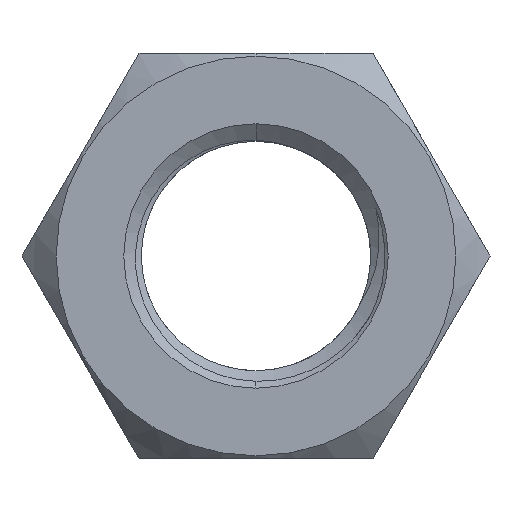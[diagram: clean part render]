
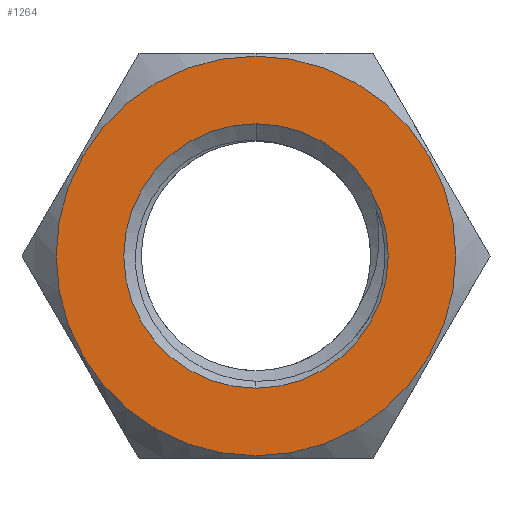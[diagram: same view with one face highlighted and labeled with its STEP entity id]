
A CAD part, front view. The second image highlights one B-rep face of the part: STEP entity #1264.
In plain terms, the highlighted planar face has unit normal (0, -1, 0).
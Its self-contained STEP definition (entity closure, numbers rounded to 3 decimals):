
#80 = CIRCLE ( 'NONE', #1542, 9.37 ) ;
#232 = CARTESIAN_POINT ( 'NONE',  ( 0., -5., 0. ) ) ;
#475 = EDGE_CURVE ( 'NONE', #2585, #2331, #2253, .T. ) ;
#517 = CARTESIAN_POINT ( 'NONE',  ( 0., -5., 0. ) ) ;
#656 = DIRECTION ( 'NONE',  ( 0., -1., 0. ) ) ;
#671 = CARTESIAN_POINT ( 'NONE',  ( 0., -5., 0. ) ) ;
#688 = CIRCLE ( 'NONE', #1484, 6.2 ) ;
#713 = CARTESIAN_POINT ( 'NONE',  ( 0., -5., 0. ) ) ;
#721 = VERTEX_POINT ( 'NONE', #2642 ) ;
#773 = DIRECTION ( 'NONE',  ( 0., -1., 0. ) ) ;
#949 = ORIENTED_EDGE ( 'NONE', *, *, #1346, .F. ) ;
#951 = DIRECTION ( 'NONE',  ( 0., 0., 1. ) ) ;
#1024 = EDGE_LOOP ( 'NONE', ( #949, #2349 ) ) ;
#1141 = DIRECTION ( 'NONE',  ( 0., -1., 0. ) ) ;
#1146 = FACE_BOUND ( 'NONE', #1024, .T. ) ;
#1235 = EDGE_LOOP ( 'NONE', ( #2796, #2976 ) ) ;
#1264 = ADVANCED_FACE ( 'NONE', ( #1146, #2342 ), #2552, .F. ) ;
#1284 = AXIS2_PLACEMENT_3D ( 'NONE', #671, #2116, #951 ) ;
#1346 = EDGE_CURVE ( 'NONE', #1384, #721, #688, .T. ) ;
#1384 = VERTEX_POINT ( 'NONE', #1600 ) ;
#1462 = DIRECTION ( 'NONE',  ( 0., -1., 0. ) ) ;
#1472 = CARTESIAN_POINT ( 'NONE',  ( 0., -5., -9.37 ) ) ;
#1484 = AXIS2_PLACEMENT_3D ( 'NONE', #713, #656, #1661 ) ;
#1507 = CARTESIAN_POINT ( 'NONE',  ( 0., -5., 9.37 ) ) ;
#1542 = AXIS2_PLACEMENT_3D ( 'NONE', #517, #1462, #2613 ) ;
#1600 = CARTESIAN_POINT ( 'NONE',  ( 0., -5., 6.2 ) ) ;
#1661 = DIRECTION ( 'NONE',  ( 0., 0., -1. ) ) ;
#1896 = DIRECTION ( 'NONE',  ( 0., 0., -1. ) ) ;
#2045 = DIRECTION ( 'NONE',  ( 0., 0., -1. ) ) ;
#2116 = DIRECTION ( 'NONE',  ( 0., 1., 0. ) ) ;
#2207 = AXIS2_PLACEMENT_3D ( 'NONE', #232, #1141, #2045 ) ;
#2253 = CIRCLE ( 'NONE', #2207, 9.37 ) ;
#2331 = VERTEX_POINT ( 'NONE', #1472 ) ;
#2342 = FACE_OUTER_BOUND ( 'NONE', #1235, .T. ) ;
#2349 = ORIENTED_EDGE ( 'NONE', *, *, #2662, .F. ) ;
#2552 = PLANE ( 'NONE',  #1284 ) ;
#2561 = EDGE_CURVE ( 'NONE', #2331, #2585, #80, .T. ) ;
#2585 = VERTEX_POINT ( 'NONE', #1507 ) ;
#2604 = AXIS2_PLACEMENT_3D ( 'NONE', #2872, #773, #1896 ) ;
#2613 = DIRECTION ( 'NONE',  ( 0., 0., -1. ) ) ;
#2642 = CARTESIAN_POINT ( 'NONE',  ( 0., -5., -6.2 ) ) ;
#2662 = EDGE_CURVE ( 'NONE', #721, #1384, #2948, .T. ) ;
#2796 = ORIENTED_EDGE ( 'NONE', *, *, #475, .T. ) ;
#2872 = CARTESIAN_POINT ( 'NONE',  ( 0., -5., 0. ) ) ;
#2948 = CIRCLE ( 'NONE', #2604, 6.2 ) ;
#2976 = ORIENTED_EDGE ( 'NONE', *, *, #2561, .T. ) ;
